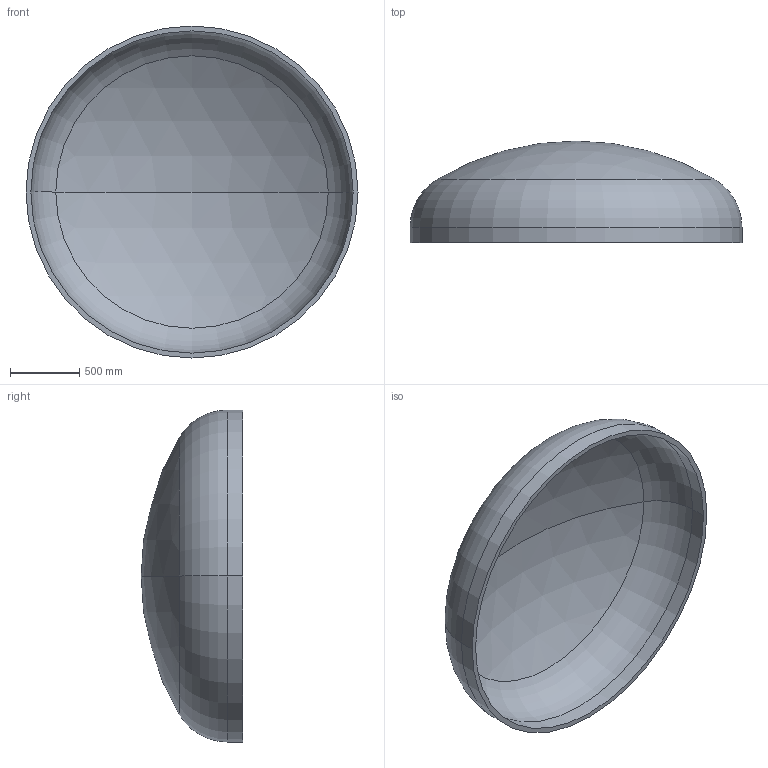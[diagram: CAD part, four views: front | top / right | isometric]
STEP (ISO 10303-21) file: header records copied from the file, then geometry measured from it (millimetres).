
FILE_DESCRIPTION (( 'STEP AP203' ), '1' );
FILE_NAME ('DIN 28013 Korbbogenform_-_Boden DIN 28013 - 2400 x 110 - I - s=35.step', '2016-07-01T15:18:13', ( '' ), ( '' ), 'SwSTEP 2.0', 'SolidWorks 2013', '' );
FILE_SCHEMA (( 'CONFIG_CONTROL_DESIGN' ));
Length unit declared in the file: millimetre
Products named in the file (1): DIN 28013 Korbbogenform_-_Boden DIN 28013 - 2400 x 110 - I - s=35
Bounding box: 2400 x 734.41 x 2400 mm (x, y, z)
Volume: 243760616.6 mm3; surface area: 14191784.3 mm2
Topology: 1 solids, 1 shells, 13 faces, 24 edges, 14 vertices
Faces by surface type: torus 4, cylinder 4, sphere 4, plane 1
Entity records: 407 total; most frequent: DIRECTION 72, CARTESIAN_POINT 52, ORIENTED_EDGE 48, AXIS2_PLACEMENT_3D 34, EDGE_CURVE 24, CIRCLE 20, VERTEX_POINT 14, EDGE_LOOP 14
